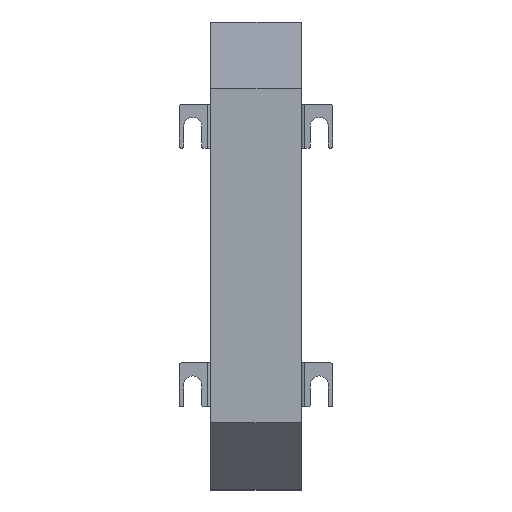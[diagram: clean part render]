
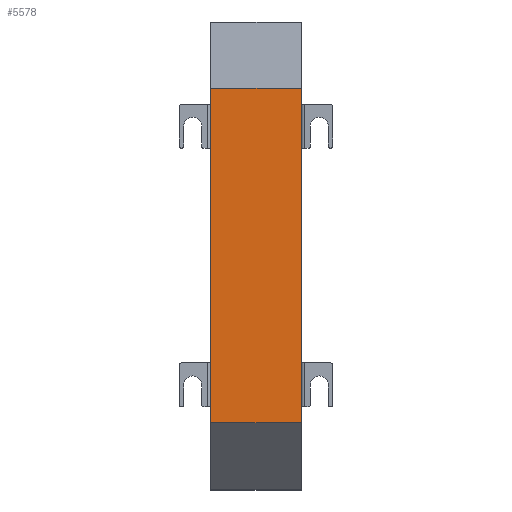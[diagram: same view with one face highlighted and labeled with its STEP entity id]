
A CAD part, top view. The second image highlights one B-rep face of the part: STEP entity #5578.
In plain terms, the highlighted planar face has unit normal (0, 0, 1) as drawn and (0, -1, 0) by its records, which use the part's own axes.
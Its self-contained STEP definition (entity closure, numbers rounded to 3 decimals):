
#10 = VERTEX_POINT ( 'NONE', #2628 ) ;
#56 = CARTESIAN_POINT ( 'NONE',  ( 121.667, 0., 16.5 ) ) ;
#57 = LINE ( 'NONE', #8129, #5462 ) ;
#63 = DIRECTION ( 'NONE',  ( 0., 1., 0. ) ) ;
#139 = VERTEX_POINT ( 'NONE', #8793 ) ;
#416 = EDGE_CURVE ( 'NONE', #5961, #139, #1010, .T. ) ;
#707 = ORIENTED_EDGE ( 'NONE', *, *, #13990, .F. ) ;
#943 = DIRECTION ( 'NONE',  ( 1., 0., 0. ) ) ;
#948 = LINE ( 'NONE', #12562, #11027 ) ;
#997 = VECTOR ( 'NONE', #943, 1000. ) ;
#1010 = LINE ( 'NONE', #4540, #11121 ) ;
#1193 = PLANE ( 'NONE',  #9632 ) ;
#1402 = DIRECTION ( 'NONE',  ( 1., 0., 0. ) ) ;
#1827 = DIRECTION ( 'NONE',  ( 1., 0., 0. ) ) ;
#2011 = LINE ( 'NONE', #12267, #11381 ) ;
#2208 = EDGE_CURVE ( 'NONE', #10, #3309, #5534, .T. ) ;
#2346 = VECTOR ( 'NONE', #8166, 1000. ) ;
#2449 = ORIENTED_EDGE ( 'NONE', *, *, #7593, .T. ) ;
#2559 = DIRECTION ( 'NONE',  ( 1., 0., 0. ) ) ;
#2628 = CARTESIAN_POINT ( 'NONE',  ( 115.833, 0., -16.5 ) ) ;
#3136 = DIRECTION ( 'NONE',  ( 1., 0., 0. ) ) ;
#3289 = VECTOR ( 'NONE', #13568, 1000. ) ;
#3309 = VERTEX_POINT ( 'NONE', #3888 ) ;
#3534 = DIRECTION ( 'NONE',  ( 0., 0., 1. ) ) ;
#3888 = CARTESIAN_POINT ( 'NONE',  ( 121.667, 0., -16.5 ) ) ;
#3952 = EDGE_CURVE ( 'NONE', #14276, #7108, #12759, .T. ) ;
#4540 = CARTESIAN_POINT ( 'NONE',  ( 0., 0., -16.5 ) ) ;
#4553 = EDGE_CURVE ( 'NONE', #14108, #7365, #57, .T. ) ;
#4757 = DIRECTION ( 'NONE',  ( 0., 0., -1. ) ) ;
#4922 = EDGE_CURVE ( 'NONE', #10807, #3309, #9292, .T. ) ;
#5299 = LINE ( 'NONE', #14441, #997 ) ;
#5383 = CARTESIAN_POINT ( 'NONE',  ( 0., 0., -16.5 ) ) ;
#5462 = VECTOR ( 'NONE', #1402, 1000. ) ;
#5530 = DIRECTION ( 'NONE',  ( 1., 0., 0. ) ) ;
#5534 = LINE ( 'NONE', #12484, #9690 ) ;
#5546 = CARTESIAN_POINT ( 'NONE',  ( 21.833, 0., 16.5 ) ) ;
#5578 = ADVANCED_FACE ( 'NONE', ( #10398 ), #1193, .F. ) ;
#5951 = CARTESIAN_POINT ( 'NONE',  ( 121.667, 0., 16.5 ) ) ;
#5961 = VERTEX_POINT ( 'NONE', #5383 ) ;
#5980 = CARTESIAN_POINT ( 'NONE',  ( 115.833, 0., 16.5 ) ) ;
#6074 = CARTESIAN_POINT ( 'NONE',  ( 21.833, 0., -16.5 ) ) ;
#6386 = CARTESIAN_POINT ( 'NONE',  ( 0., 0., 16.5 ) ) ;
#6634 = VECTOR ( 'NONE', #11072, 1000. ) ;
#6844 = CARTESIAN_POINT ( 'NONE',  ( 0., 0., 16.5 ) ) ;
#6961 = EDGE_CURVE ( 'NONE', #13365, #14276, #2011, .T. ) ;
#7061 = CARTESIAN_POINT ( 'NONE',  ( 0., 0., 16.5 ) ) ;
#7101 = EDGE_CURVE ( 'NONE', #13231, #13365, #13291, .T. ) ;
#7108 = VERTEX_POINT ( 'NONE', #9889 ) ;
#7365 = VERTEX_POINT ( 'NONE', #8159 ) ;
#7547 = CARTESIAN_POINT ( 'NONE',  ( 0., 0., 16.5 ) ) ;
#7593 = EDGE_CURVE ( 'NONE', #13231, #5961, #8879, .T. ) ;
#7606 = EDGE_CURVE ( 'NONE', #7365, #10, #13493, .T. ) ;
#7700 = ORIENTED_EDGE ( 'NONE', *, *, #2208, .T. ) ;
#8129 = CARTESIAN_POINT ( 'NONE',  ( 0., 0., -16.5 ) ) ;
#8159 = CARTESIAN_POINT ( 'NONE',  ( 99.833, 0., -16.5 ) ) ;
#8166 = DIRECTION ( 'NONE',  ( 1., 0., 0. ) ) ;
#8235 = CARTESIAN_POINT ( 'NONE',  ( 0., 0., 16.5 ) ) ;
#8505 = LINE ( 'NONE', #12890, #9599 ) ;
#8619 = ORIENTED_EDGE ( 'NONE', *, *, #6961, .F. ) ;
#8697 = CARTESIAN_POINT ( 'NONE',  ( 5.833, 0., 16.5 ) ) ;
#8793 = CARTESIAN_POINT ( 'NONE',  ( 5.833, 0., -16.5 ) ) ;
#8879 = LINE ( 'NONE', #6386, #6634 ) ;
#8951 = CARTESIAN_POINT ( 'NONE',  ( 0., 0., -16.5 ) ) ;
#9094 = EDGE_CURVE ( 'NONE', #7108, #9909, #5299, .T. ) ;
#9124 = ORIENTED_EDGE ( 'NONE', *, *, #4553, .T. ) ;
#9163 = VECTOR ( 'NONE', #4757, 1000. ) ;
#9292 = LINE ( 'NONE', #5951, #9163 ) ;
#9599 = VECTOR ( 'NONE', #2559, 1000. ) ;
#9632 = AXIS2_PLACEMENT_3D ( 'NONE', #7061, #63, #3534 ) ;
#9690 = VECTOR ( 'NONE', #14678, 1000. ) ;
#9889 = CARTESIAN_POINT ( 'NONE',  ( 99.833, 0., 16.5 ) ) ;
#9909 = VERTEX_POINT ( 'NONE', #5980 ) ;
#10398 = FACE_OUTER_BOUND ( 'NONE', #14777, .T. ) ;
#10800 = ORIENTED_EDGE ( 'NONE', *, *, #14666, .T. ) ;
#10807 = VERTEX_POINT ( 'NONE', #56 ) ;
#11027 = VECTOR ( 'NONE', #5530, 1000. ) ;
#11072 = DIRECTION ( 'NONE',  ( 0., 0., -1. ) ) ;
#11121 = VECTOR ( 'NONE', #11488, 1000. ) ;
#11381 = VECTOR ( 'NONE', #3136, 1000. ) ;
#11488 = DIRECTION ( 'NONE',  ( 1., 0., 0. ) ) ;
#12267 = CARTESIAN_POINT ( 'NONE',  ( 0., 0., 16.5 ) ) ;
#12484 = CARTESIAN_POINT ( 'NONE',  ( 0., 0., -16.5 ) ) ;
#12562 = CARTESIAN_POINT ( 'NONE',  ( 0., 0., -16.5 ) ) ;
#12688 = ORIENTED_EDGE ( 'NONE', *, *, #7606, .T. ) ;
#12759 = LINE ( 'NONE', #8235, #2346 ) ;
#12890 = CARTESIAN_POINT ( 'NONE',  ( 0., 0., 16.5 ) ) ;
#13142 = ORIENTED_EDGE ( 'NONE', *, *, #3952, .F. ) ;
#13231 = VERTEX_POINT ( 'NONE', #6844 ) ;
#13291 = LINE ( 'NONE', #7547, #13317 ) ;
#13317 = VECTOR ( 'NONE', #1827, 1000. ) ;
#13365 = VERTEX_POINT ( 'NONE', #8697 ) ;
#13493 = LINE ( 'NONE', #8951, #3289 ) ;
#13568 = DIRECTION ( 'NONE',  ( 1., 0., 0. ) ) ;
#13990 = EDGE_CURVE ( 'NONE', #9909, #10807, #8505, .T. ) ;
#14007 = ORIENTED_EDGE ( 'NONE', *, *, #9094, .F. ) ;
#14108 = VERTEX_POINT ( 'NONE', #6074 ) ;
#14185 = ORIENTED_EDGE ( 'NONE', *, *, #4922, .F. ) ;
#14276 = VERTEX_POINT ( 'NONE', #5546 ) ;
#14285 = ORIENTED_EDGE ( 'NONE', *, *, #7101, .F. ) ;
#14441 = CARTESIAN_POINT ( 'NONE',  ( 0., 0., 16.5 ) ) ;
#14666 = EDGE_CURVE ( 'NONE', #139, #14108, #948, .T. ) ;
#14678 = DIRECTION ( 'NONE',  ( 1., 0., 0. ) ) ;
#14777 = EDGE_LOOP ( 'NONE', ( #14859, #10800, #9124, #12688, #7700, #14185, #707, #14007, #13142, #8619, #14285, #2449 ) ) ;
#14859 = ORIENTED_EDGE ( 'NONE', *, *, #416, .T. ) ;
